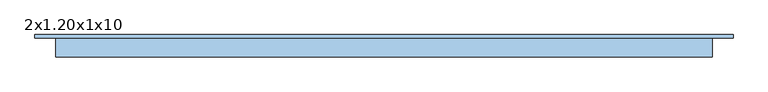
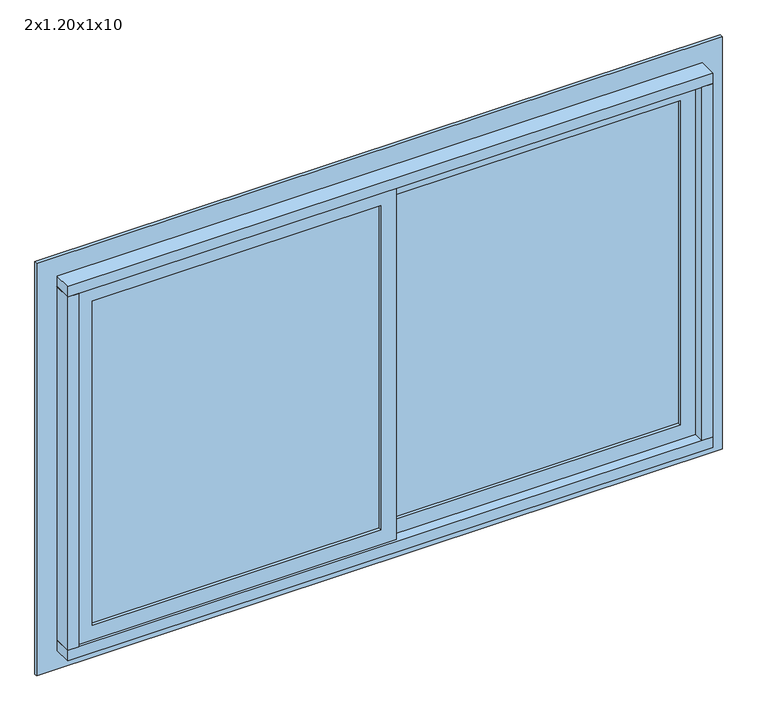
"""IFC4 building model written with IfcOpenShell, lengths in millimetres: window geometry, JANELA COM ESQUADRIA DE CORRER - 2 FOLHAS : 2x1.20x1x10."""

from ifc_helpers import new_model, si_unit, frame, origin, place, context, project, spatial, polyline, outline, extrude, source, transform, mapped, element, save


def window_2x1_20x1x10_631532af(model_context):
    return source(origin(), model_context, "Body", "SweptSolid", [
        extrude(outline(polyline([(-820.5964491, 5.3758395), (-820.5964491, 11.3758395), (104.4035509, 11.3758395), (104.4035509, 5.3758395), (-820.5964491, 5.3758395)])), frame((0.0, 0.0, 1050.0), z_axis=(0.0, 0.0, 1.0), x_axis=(1.0, 0.0, 0.0)), (0.0, 0.0, 1.0), 1100.0),
        extrude(outline(polyline([(2200.0, -870.5964491), (1000.0, -870.5964491), (1000.0, 154.4035509), (2200.0, 154.4035509), (2200.0, -870.5964491)]), holes=[polyline([(2150.0, -820.5964491), (2150.0, 104.4035509), (1050.0, 104.4035509), (1050.0, -820.5964491), (2150.0, -820.5964491)])]), frame((0.0, -4.1241605, 0.0), z_axis=(0.0, 1.0, 0.0), x_axis=(0.0, 0.0, 1.0)), (0.0, 0.0, 1.0), 25.0),
        extrude(outline(polyline([(1079.4035509, 30.3758395), (154.4035509, 30.3758395), (154.4035509, 36.3758395), (1079.4035509, 36.3758395), (1079.4035509, 30.3758395)])), frame((0.0, 0.0, 1050.0), z_axis=(0.0, 0.0, 1.0), x_axis=(1.0, 0.0, 0.0)), (0.0, 0.0, 1.0), 1100.0),
        extrude(outline(polyline([(2200.0, 1129.4035509), (2200.0, 104.4035509), (1000.0, 104.4035509), (1000.0, 1129.4035509), (2200.0, 1129.4035509)]), holes=[polyline([(2150.0, 1079.4035509), (1050.0, 1079.4035509), (1050.0, 154.4035509), (2150.0, 154.4035509), (2150.0, 1079.4035509)])]), frame((0.0, 20.8758395, 0.0), z_axis=(0.0, 1.0, 0.0), x_axis=(0.0, 0.0, 1.0)), (0.0, 0.0, 1.0), 25.0),
        extrude(outline(polyline([(900.0, -970.5964491), (900.0, 1229.4035509), (2300.0, 1229.4035509), (2300.0, -970.5964491), (900.0, -970.5964491)]), holes=[polyline([(2200.0, -870.5964491), (2200.0, 1129.4035509), (1000.0, 1129.4035509), (1000.0, -870.5964491), (2200.0, -870.5964491)])]), frame((0.0, 45.8758395, 0.0), z_axis=(0.0, 1.0, 0.0), x_axis=(0.0, 0.0, 1.0)), (0.0, 0.0, 1.0), 10.0),
        extrude(outline(polyline([(-905.5964491, -14.1241605), (-905.5964491, 45.8758395), (-870.5964491, 45.8758395), (-870.5964491, -14.1241605), (-905.5964491, -14.1241605)])), frame((0.0, 0.0, 1000.0), z_axis=(0.0, 0.0, 1.0), x_axis=(1.0, 0.0, 0.0)), (0.0, 0.0, 1.0), 1200.0),
        extrude(outline(polyline([(1129.4035509, -14.1241605), (1129.4035509, 45.8758395), (1164.4035509, 45.8758395), (1164.4035509, -14.1241605), (1129.4035509, -14.1241605)])), frame((0.0, 0.0, 1000.0), z_axis=(0.0, 0.0, 1.0), x_axis=(1.0, 0.0, 0.0)), (0.0, 0.0, 1.0), 1200.0),
        extrude(outline(polyline([(-905.5964491, -14.1241605), (-905.5964491, 45.8758395), (1164.4035509, 45.8758395), (1164.4035509, -14.1241605), (-905.5964491, -14.1241605)])), frame((0.0, 0.0, 965.0), z_axis=(0.0, 0.0, 1.0), x_axis=(1.0, 0.0, 0.0)), (0.0, 0.0, 1.0), 35.0),
        extrude(outline(polyline([(-905.5964491, -14.1241605), (-905.5964491, 45.8758395), (1164.4035509, 45.8758395), (1164.4035509, -14.1241605), (-905.5964491, -14.1241605)])), frame((0.0, 0.0, 2200.0), z_axis=(0.0, 0.0, 1.0), x_axis=(1.0, 0.0, 0.0)), (0.0, 0.0, 1.0), 35.0),
    ])


if __name__ == "__main__":
    model = new_model("IFC4")
    model_context = context("Model", 3, world=origin())
    ifc_project = project(units=[si_unit("LENGTHUNIT", "METRE", prefix="MILLI")], contexts=[model_context])
    site = spatial("IfcSite", under=ifc_project)
    building = spatial("IfcBuilding", under=site)
    placement = place(None, origin())
    window_2x1_20x1x10_shape = window_2x1_20x1x10_631532af(model_context)
    element("IfcWindow", 1, ObjectType="JANELA COM ESQUADRIA DE CORRER - 2 FOLHAS : 2x1.20x1x10", at=placement, inside=building, context=model_context, shape_type="MappedRepresentation", body=[
        mapped(window_2x1_20x1x10_shape, transform((0.0, 0.0, 0.0), x_axis=(1.0, 0.0, 0.0), y_axis=(0.0, 1.0, 0.0), z_axis=(0.0, 0.0, 1.0))),
    ])
    save(model, "model.ifc")
